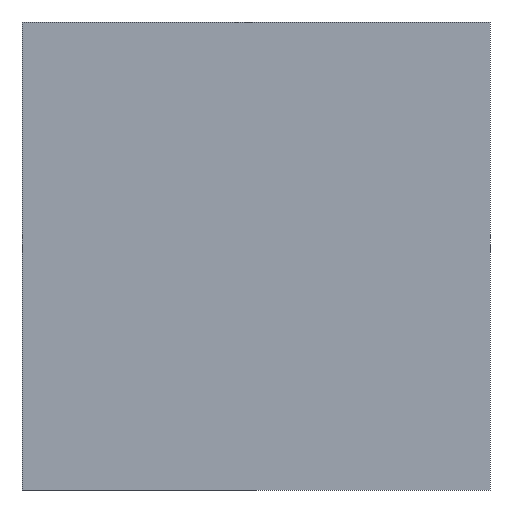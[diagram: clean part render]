
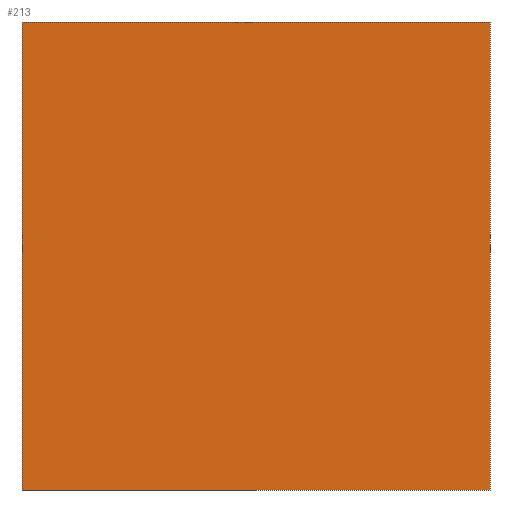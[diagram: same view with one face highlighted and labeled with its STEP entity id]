
A CAD part, front view. The second image highlights one B-rep face of the part: STEP entity #213.
In plain terms, the highlighted planar face has unit normal (0, -1, 0).
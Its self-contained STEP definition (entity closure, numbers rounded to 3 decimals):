
#46 = EDGE_CURVE ( 'NONE', #959, #1132, #1109, .T. ) ;
#104 = VECTOR ( 'NONE', #848, 1000. ) ;
#188 = EDGE_CURVE ( 'NONE', #446, #1132, #530, .T. ) ;
#210 = CARTESIAN_POINT ( 'NONE',  ( 0., 0., 900. ) ) ;
#213 = ADVANCED_FACE ( 'NONE', ( #1168 ), #352, .T. ) ;
#297 = VECTOR ( 'NONE', #969, 1000. ) ;
#316 = VECTOR ( 'NONE', #838, 1000. ) ;
#346 = CARTESIAN_POINT ( 'NONE',  ( 0., 0., 900. ) ) ;
#352 = PLANE ( 'NONE',  #902 ) ;
#398 = ORIENTED_EDGE ( 'NONE', *, *, #46, .T. ) ;
#446 = VERTEX_POINT ( 'NONE', #647 ) ;
#503 = ORIENTED_EDGE ( 'NONE', *, *, #619, .T. ) ;
#507 = CARTESIAN_POINT ( 'NONE',  ( -900., 0., 0. ) ) ;
#530 = LINE ( 'NONE', #700, #617 ) ;
#564 = CARTESIAN_POINT ( 'NONE',  ( -900., 0., 900. ) ) ;
#601 = ORIENTED_EDGE ( 'NONE', *, *, #188, .F. ) ;
#617 = VECTOR ( 'NONE', #1073, 1000. ) ;
#619 = EDGE_CURVE ( 'NONE', #648, #959, #662, .T. ) ;
#644 = ORIENTED_EDGE ( 'NONE', *, *, #1014, .F. ) ;
#647 = CARTESIAN_POINT ( 'NONE',  ( 0., 0., 0. ) ) ;
#648 = VERTEX_POINT ( 'NONE', #210 ) ;
#660 = CARTESIAN_POINT ( 'NONE',  ( -900., 0., 900. ) ) ;
#662 = LINE ( 'NONE', #861, #104 ) ;
#700 = CARTESIAN_POINT ( 'NONE',  ( 0., 0., 0. ) ) ;
#783 = DIRECTION ( 'NONE',  ( 0., -1., 0. ) ) ;
#838 = DIRECTION ( 'NONE',  ( 0., 0., -1. ) ) ;
#848 = DIRECTION ( 'NONE',  ( -1., 0., 0. ) ) ;
#861 = CARTESIAN_POINT ( 'NONE',  ( 0., 0., 900. ) ) ;
#902 = AXIS2_PLACEMENT_3D ( 'NONE', #1135, #783, #1156 ) ;
#959 = VERTEX_POINT ( 'NONE', #660 ) ;
#969 = DIRECTION ( 'NONE',  ( 0., 0., -1. ) ) ;
#1014 = EDGE_CURVE ( 'NONE', #648, #446, #1162, .T. ) ;
#1073 = DIRECTION ( 'NONE',  ( -1., 0., 0. ) ) ;
#1108 = EDGE_LOOP ( 'NONE', ( #601, #644, #503, #398 ) ) ;
#1109 = LINE ( 'NONE', #564, #316 ) ;
#1132 = VERTEX_POINT ( 'NONE', #507 ) ;
#1135 = CARTESIAN_POINT ( 'NONE',  ( 0., 0., 900. ) ) ;
#1156 = DIRECTION ( 'NONE',  ( 1., 0., 0. ) ) ;
#1162 = LINE ( 'NONE', #346, #297 ) ;
#1168 = FACE_OUTER_BOUND ( 'NONE', #1108, .T. ) ;
